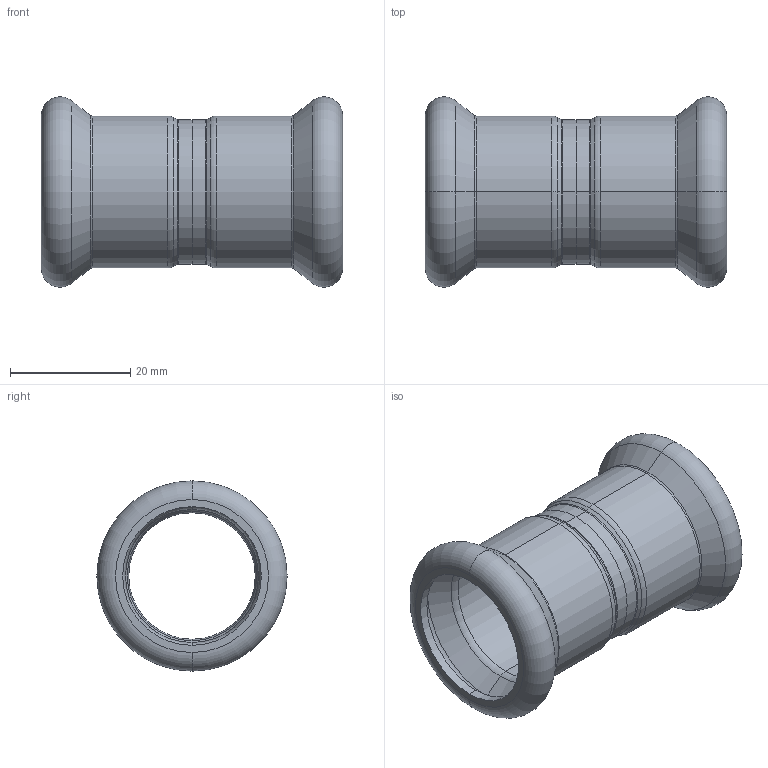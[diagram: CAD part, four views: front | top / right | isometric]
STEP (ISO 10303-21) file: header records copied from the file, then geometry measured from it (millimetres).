
FILE_DESCRIPTION (( 'STEP AP203' ), '1' );
FILE_NAME ('GDA5003.STEP', '2019-01-21T08:49:04', ( '' ), ( '' ), 'SwSTEP 2.0', 'SolidWorks 2015', '' );
FILE_SCHEMA (( 'CONFIG_CONTROL_DESIGN' ));
Length unit declared in the file: millimetre
Products named in the file (1): GDA5003
Bounding box: 50 x 31.6 x 31.6 mm (x, y, z)
Volume: 6575.4 mm3; surface area: 9205.4 mm2
Topology: 2 solids, 2 shells, 74 faces, 148 edges, 80 vertices
Faces by surface type: torus 32, cylinder 20, cone 16, plane 6
Entity records: 1999 total; most frequent: DIRECTION 410, CARTESIAN_POINT 303, ORIENTED_EDGE 296, AXIS2_PLACEMENT_3D 187, EDGE_CURVE 148, CIRCLE 112, EDGE_LOOP 80, VERTEX_POINT 80
